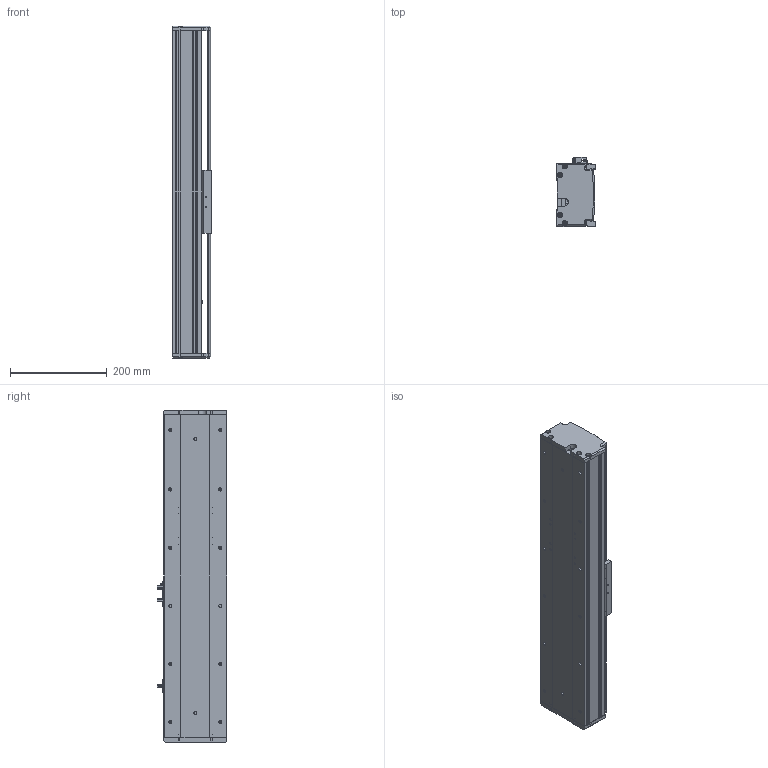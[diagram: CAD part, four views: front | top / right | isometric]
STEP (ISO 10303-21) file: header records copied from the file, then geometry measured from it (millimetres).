
FILE_DESCRIPTION (( 'STEP AP214' ), '1' );
FILE_NAME ('KSD130S-P2010-S200-M-CM.STEP', '2019-09-10T06:28:03', ( '微软用户' ), ( '微软中国' ), 'SwSTEP 2.0', 'SolidWorks 2014', '' );
FILE_SCHEMA (( 'AUTOMOTIVE_DESIGN' ));
Length unit declared in the file: millimetre
Products named in the file (8): 130宽马达安装板半封闭-内装; U倰嫖萇EEㄜSX672; 覜茼え100遵圉猾敕; 130宽盖板半封闭丝杠内装-200行程; 130宽滚珠丝杆安装板半封闭-内装-20丝杆; 130宽端盖半封闭-内装; 130宽底板半封闭丝杠内装-200行程; KSD130S-P2010-S200-M-CM
Assembly tree (9 placements, depth 2):
  KSD130S-P2010-S200-M-CM
    130宽底板半封闭丝杠内装-200行程
    130宽端盖半封闭-内装
    130宽滚珠丝杆安装板半封闭-内装-20丝杆
    130宽盖板半封闭丝杠内装-200行程
    覜茼え100遵圉猾敕
    U倰嫖萇EEㄜSX672  x3
    130宽马达安装板半封闭-内装
Bounding box: 80 x 143.7 x 685 mm (x, y, z)
Volume: 2246785.3 mm3; surface area: 678837.7 mm2
Topology: 9 solids, 9 shells, 985 faces, 2824 edges, 1808 vertices
Faces by surface type: plane 435, cylinder 428, cone 122
Entity records: 30708 total; most frequent: CARTESIAN_POINT 5765, DIRECTION 4486, ORIENTED_EDGE 4400, EDGE_CURVE 2200, AXIS2_PLACEMENT_3D 1613, VERTEX_POINT 1432, VECTOR 1260, LINE 1260
